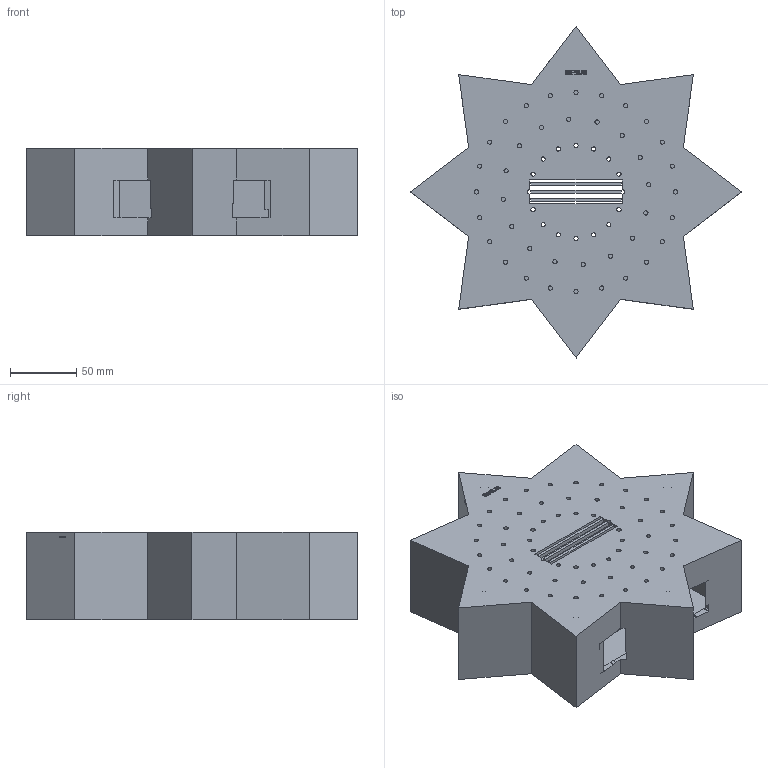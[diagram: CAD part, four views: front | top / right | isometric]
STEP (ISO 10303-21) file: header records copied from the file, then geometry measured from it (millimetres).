
FILE_DESCRIPTION(('Open CASCADE Model'),'2;1');
FILE_NAME('Open CASCADE Shape Model','2026-07-20T15:40:33',('Author'),( 'Open CASCADE'),'Open CASCADE STEP processor 7.7','Open CASCADE 7.7' ,'Unknown');
FILE_SCHEMA(('AUTOMOTIVE_DESIGN { 1 0 10303 214 1 1 1 1 }'));
Length unit declared in the file: millimetre
Products named in the file (6): Open CASCADE STEP translator 7.7 4; Open CASCADE STEP translator 7.7 4.1; Open CASCADE STEP translator 7.7 4.1.1; Open CASCADE STEP translator 7.7 4.1.2; Open CASCADE STEP translator 7.7 4.1.3; Open CASCADE STEP translator 7.7 4.1.4
Assembly tree (5 placements, depth 3):
  Open CASCADE STEP translator 7.7 4
    Open CASCADE STEP translator 7.7 4.1
      Open CASCADE STEP translator 7.7 4.1.1
      Open CASCADE STEP translator 7.7 4.1.2
      Open CASCADE STEP translator 7.7 4.1.3
      Open CASCADE STEP translator 7.7 4.1.4
Bounding box: 250 x 250 x 66 mm (x, y, z)
Volume: 694370.8 mm3; surface area: 210116.9 mm2
Topology: 4 solids, 29 shells, 588 faces, 1536 edges, 1024 vertices
Faces by surface type: plane 329, extrusion 182, cylinder 77
Full cylindrical faces by diameter (mm): 3.2 x54, 6.15 x8, 12.3 x4, 88 x1
Entity records: 38635 total; most frequent: CARTESIAN_POINT 9148, DIRECTION 4658, VECTOR 3473, LINE 3291, ORIENTED_EDGE 3072, PCURVE 3072, DEFINITIONAL_REPRESENTATION 3072, EDGE_CURVE 1536
